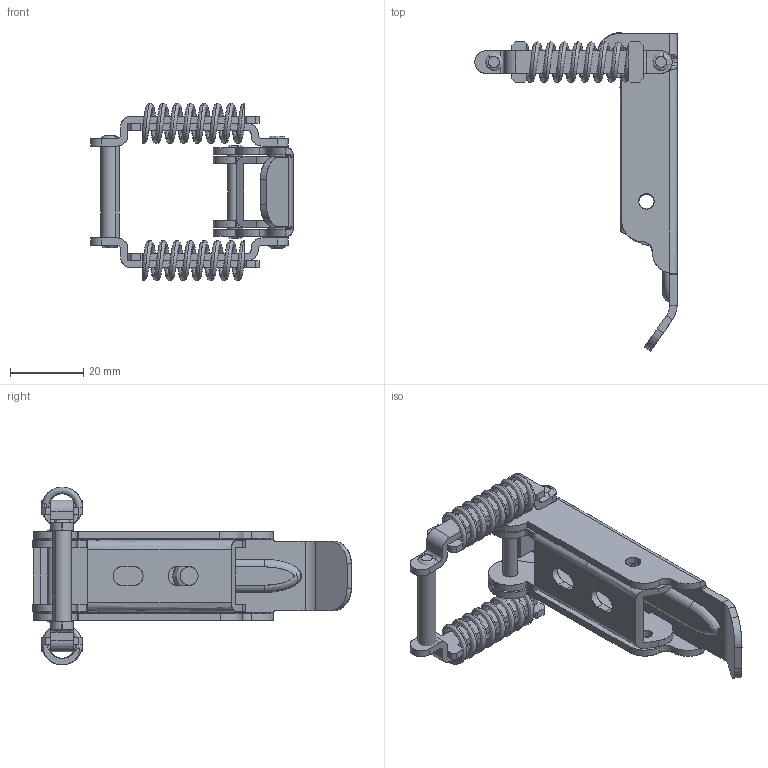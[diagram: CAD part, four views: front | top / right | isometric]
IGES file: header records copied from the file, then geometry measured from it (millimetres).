
Start section: SolidWorks IGES FILE using analytic representation for surfaces
Global section: file name: C:\Documents and Settings\lecoutey\Bureau\GP 1075\GP 1075.IGS; native system: SolidWorks 2004 by SolidWorks Corporation; preprocessor: Version 5.3; author: lecoutey; date: 050329.153414; units: millimetre
Bounding box: 55.18 x 86.86 x 48.45 mm (x, y, z)
Surface area: 19952.1 mm2 (no closed solid volume)
Topology: 0 solids, 0 shells, 307 faces, 4341 edges, 4337 vertices
Faces by surface type: bspline 172, revolution 135
